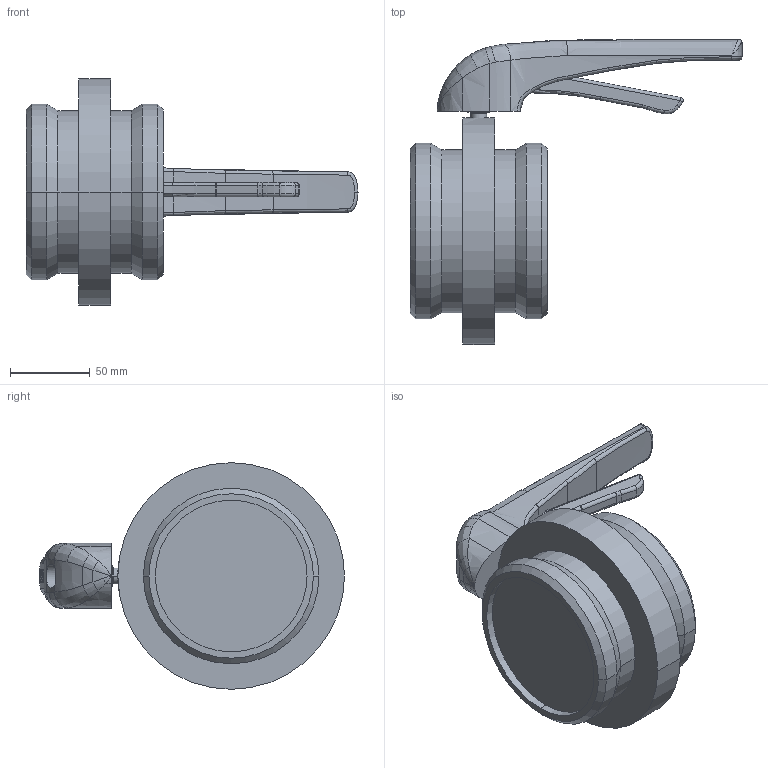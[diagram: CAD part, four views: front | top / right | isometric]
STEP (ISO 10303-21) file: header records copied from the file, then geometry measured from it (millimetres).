
FILE_DESCRIPTION(('Creo Elements/Direct Modeling STEP Export'),'2;1');
FILE_NAME('SV1-80-H-12G.stp','2015-08-10T11:13:59',(''),(''),'Creo Elements/Direct Modeling STEP processor for AP214 (Solid Model)','Creo Elements/Direct Modeling 17.0D 15-Jul-2011 (C) Parametric Technology GmbH','');
FILE_SCHEMA(('AUTOMOTIVE_DESIGN { 1 0 10303 214 1 1 1 1 }'));
Length unit declared in the file: millimetre
Products named in the file (3): SV1-80-12G; Handhebel_SV; SV1-80-H-12G
Assembly tree (2 placements, depth 2):
  SV1-80-H-12G
    Handhebel_SV
    SV1-80-12G
Bounding box: 208 x 191.1 x 142 mm (x, y, z)
Volume: 963519.7 mm3; surface area: 90081.4 mm2
Topology: 2 solids, 2 shells, 220 faces, 549 edges, 343 vertices
Faces by surface type: plane 99, cylinder 35, bspline 34, extrusion 32, torus 10, cone 8, sphere 2
Entity records: 22206 total; most frequent: CARTESIAN_POINT 17045, ORIENTED_EDGE 1090, DIRECTION 725, EDGE_CURVE 545, VERTEX_POINT 343, VECTOR 271, LINE 239, EDGE_LOOP 234
